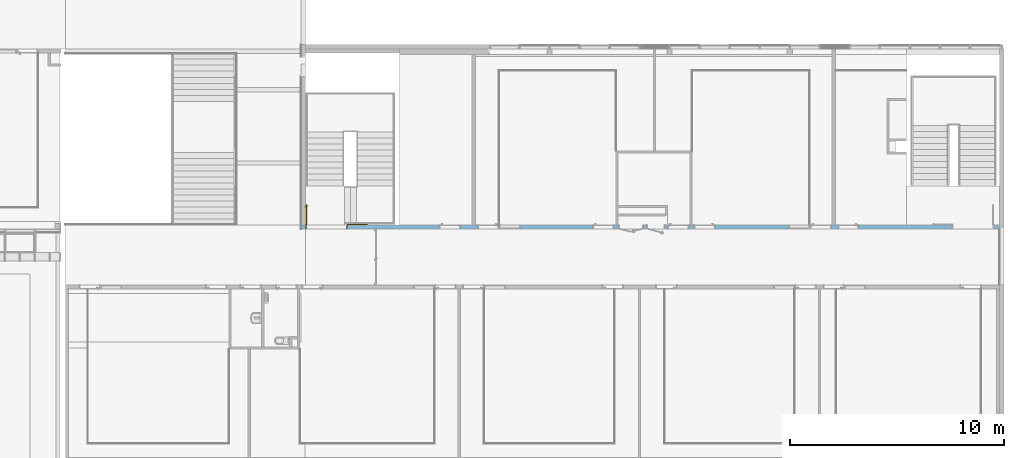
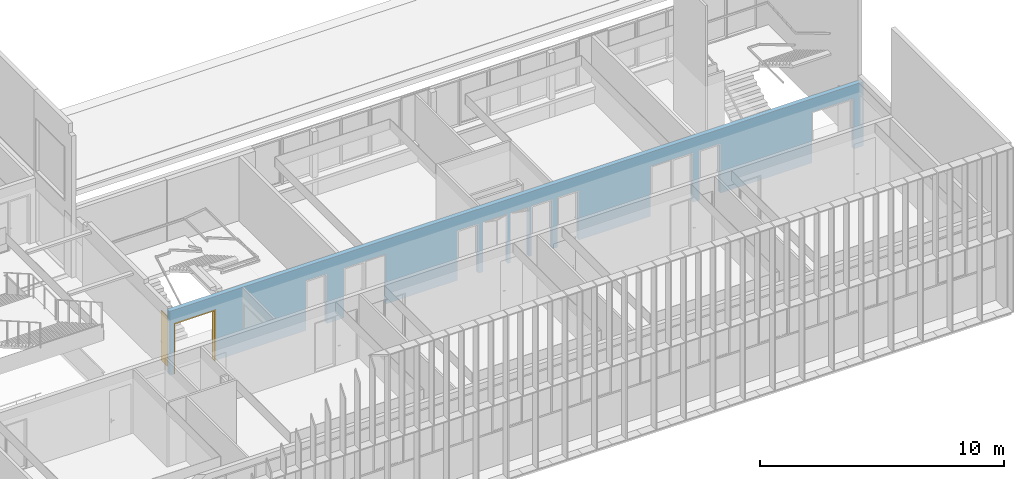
# One storey, part 89 of 106: 1 door, 13 openings, plus 1 element that does not belong to this part.
"""IFC2X3 building model written with IfcOpenShell, lengths in centimetres."""

from ifc_helpers import new_model, entity, si_unit, converted_unit, derived_unit, direction, frame, frame_2d, origin, place, context, subcontext, project, spatial, polyline, rectangle, extrude, clip, bounded_halfspace, faceted_brep, source, transform, mapped, material, material_list, layer, layer_set, layer_usage, type_object, type_shapes, element, fill, save


model = new_model("IFC2X3")

# Units and contexts
model_context = context("Model", 3, precision=0.001, world=origin(), true_north=direction((6.12303176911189e-17, 1.0)))
body_context = subcontext(model_context, "Body", "Model", "MODEL_VIEW")
ifc_project = project(units=[si_unit("LENGTHUNIT", "METRE", prefix="CENTI"), si_unit("AREAUNIT", "SQUARE_METRE"), si_unit("VOLUMEUNIT", "CUBIC_METRE"), converted_unit("PLANEANGLEUNIT", "DEGREE", entity("IfcRatioMeasure", 0.0174532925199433), si_unit("PLANEANGLEUNIT", "RADIAN"), dimensions=[0, 0, 0, 0, 0, 0, 0]), si_unit("MASSUNIT", "GRAM", prefix="KILO"), derived_unit("MASSDENSITYUNIT", [(si_unit("MASSUNIT", "GRAM", prefix="KILO"), 1), (si_unit("LENGTHUNIT", "METRE"), -3)]), si_unit("TIMEUNIT", "SECOND"), si_unit("FREQUENCYUNIT", "HERTZ"), si_unit("THERMODYNAMICTEMPERATUREUNIT", "DEGREE_CELSIUS"), derived_unit("THERMALTRANSMITTANCEUNIT", [(si_unit("MASSUNIT", "GRAM", prefix="KILO"), 1), (si_unit("THERMODYNAMICTEMPERATUREUNIT", "KELVIN"), -1), (si_unit("TIMEUNIT", "SECOND"), -3)]), derived_unit("VOLUMETRICFLOWRATEUNIT", [(si_unit("LENGTHUNIT", "METRE"), 3), (si_unit("TIMEUNIT", "SECOND"), -1)]), si_unit("ELECTRICCURRENTUNIT", "AMPERE"), si_unit("ELECTRICVOLTAGEUNIT", "VOLT"), si_unit("POWERUNIT", "WATT"), si_unit("FORCEUNIT", "NEWTON", prefix="KILO"), si_unit("ILLUMINANCEUNIT", "LUX"), si_unit("LUMINOUSFLUXUNIT", "LUMEN"), si_unit("LUMINOUSINTENSITYUNIT", "CANDELA"), derived_unit("USERDEFINED", [(si_unit("MASSUNIT", "GRAM", prefix="KILO"), -1), (si_unit("LENGTHUNIT", "METRE"), -2), (si_unit("TIMEUNIT", "SECOND"), 3), (si_unit("LUMINOUSFLUXUNIT", "LUMEN"), 1)]), derived_unit("LINEARVELOCITYUNIT", [(si_unit("LENGTHUNIT", "METRE"), 1), (si_unit("TIMEUNIT", "SECOND"), -1)]), si_unit("PRESSUREUNIT", "PASCAL"), derived_unit("USERDEFINED", [(si_unit("LENGTHUNIT", "METRE"), -2), (si_unit("MASSUNIT", "GRAM", prefix="KILO"), 1), (si_unit("TIMEUNIT", "SECOND"), -2)])], contexts=[model_context])

# Site, building, storey
site_placement = place(None, frame((-2781.94577612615, 7442.24238424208, 0.0)))
site = spatial("IfcSite", under=ifc_project, at=site_placement, Name="Default", CompositionType="ELEMENT")
building_placement = place(site_placement, origin())
building = spatial("IfcBuilding", under=site, at=building_placement, CompositionType="ELEMENT")
storey_placement = place(building_placement, frame((0.0, 0.0, 422.0)))
storey = spatial("IfcBuildingStorey", under=building, at=storey_placement, Name="Toiture - Cuisine", CompositionType="ELEMENT", Elevation=421.999999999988)

# Wall, openings, door
ifc_material_1 = material(Name="01 - Maçonnerie")
ifc_layer = layer(ifc_material_1, 20.0)
ifc_layer_set = layer_set([ifc_layer], Name="Mur de base:04 - Structure - béton - 20cm")
ifc_layer_usage = layer_usage(ifc_layer_set, "AXIS2", "NEGATIVE", 10.0)
wall_type = type_object("IfcWallType", Name="Mur de base:04 - Structure - béton - 20cm", PredefinedType="STANDARD", material=ifc_layer_set)
wall_placement = place(building_placement, frame((-3667.99987968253, -1920.07903364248, 422.0)))
wall = element("IfcWallStandardCase", 1, at=wall_placement, inside=storey, type_object=wall_type, material=ifc_layer_usage, Name="Mur de base:04 - Structure - béton - 20cm", ObjectType="Mur de base:04 - Structure - béton - 20cm", context=body_context, shape_type="Clipping", body=[
    clip(clip(extrude(rectangle(XDim=3277.99999684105, YDim=19.9999999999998, at=frame_2d((1638.99999842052, 6.21724893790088e-14), x_axis=(-1.0, 0.0))), origin(), (0.0, 0.0, 1.0), 321.0), bounded_halfspace(frame((0.0, -10.0, 321.0), z_axis=(0.0, 0.0, -1.0), x_axis=(0.0, 1.0, 0.0)), True, frame((0.0, -10.0, 321.0)), polyline([(0.0, 0.0), (20.0, 0.0), (20.0, 20.0), (0.0, 20.0), (0.0, 0.0)]))), bounded_halfspace(frame((458.699996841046, -10.0, 321.0), z_axis=(0.0, 0.0, -1.0), x_axis=(0.0, 1.0, 0.0)), True, frame((458.699996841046, -10.0, 321.0)), polyline([(0.0, 0.0), (2797.3, 0.0), (2799.29999999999, 0.0), (2799.29999999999, 10.0), (2799.29999999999, 20.0), (2034.0, 20.0), (2018.0, 20.0), (1914.0, 20.0), (1912.0, 20.0), (1363.8, 20.0), (1353.8, 20.0), (1249.8, 20.0), (1239.8, 20.0), (1149.8, 20.0), (1139.8, 20.0), (1019.8, 20.0), (1009.8, 20.0), (466.0, 20.0), (464.0, 20.0), (0.0, 20.0), (0.0, 0.0)]))),
])
opening_1_placement = place(wall_placement, frame((2502.69999684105, -10.0, 0.0)))
element("IfcOpeningElement", 2, at=opening_1_placement, cuts=wall, Name="Int. Simple:PP simple (0.93m x 2.50m):1", ObjectType="Opening", context=body_context, shape_type="SweptSolid", body=[
    extrude(rectangle(XDim=248.500000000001, YDim=99.9999999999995, at=frame_2d((124.250000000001, 49.9999999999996), x_axis=(1.0, 0.0))), frame((0.0, 0.0, 0.0), z_axis=(0.0, 1.0, 0.0), x_axis=(0.0, 0.0, 1.0)), (0.0, 0.0, 1.0), 20.0),
])
opening_2_placement = place(wall_placement, frame((2372.69999684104, -10.0, 0.0)))
element("IfcOpeningElement", 3, at=opening_2_placement, cuts=wall, Name="Int. Simple:PV (0.93m x 2.50m):1", ObjectType="Opening", context=body_context, shape_type="SweptSolid", body=[
    extrude(rectangle(XDim=248.500000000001, YDim=99.9999999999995, at=frame_2d((124.250000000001, 49.9999999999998), x_axis=(1.0, 0.0))), frame((0.0, 0.0, 0.0), z_axis=(0.0, 1.0, 0.0), x_axis=(0.0, 0.0, 1.0)), (0.0, 0.0, 1.0), 20.0),
])
opening_3_placement = place(wall_placement, frame((1832.49999684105, -10.0, 0.0)))
element("IfcOpeningElement", 4, at=opening_3_placement, cuts=wall, Name="Int. Simple:PV (0.93m x 2.50m):1", ObjectType="Opening", context=body_context, shape_type="SweptSolid", body=[
    extrude(rectangle(XDim=248.500000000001, YDim=99.9999999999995, at=frame_2d((124.250000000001, 49.9999999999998), x_axis=(1.0, 0.0))), frame((0.0, 0.0, 0.0), z_axis=(0.0, 1.0, 0.0), x_axis=(0.0, 0.0, 1.0)), (0.0, 0.0, 1.0), 20.0),
])
opening_4_placement = place(wall_placement, frame((1708.49999684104, -10.0, 0.0)))
element("IfcOpeningElement", 5, at=opening_4_placement, cuts=wall, Name="Int. Simple:PP simple (0.93m x 2.50m):1", ObjectType="Opening", context=body_context, shape_type="SweptSolid", body=[
    extrude(rectangle(XDim=248.500000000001, YDim=99.9999999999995, at=frame_2d((124.250000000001, 49.9999999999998), x_axis=(1.0, 0.0))), frame((0.0, 0.0, 0.0), z_axis=(0.0, 1.0, 0.0), x_axis=(0.0, 0.0, 1.0)), (0.0, 0.0, 1.0), 20.0),
])
opening_5_placement = place(wall_placement, frame((1358.49999684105, -10.0, 0.0)))
element("IfcOpeningElement", 6, at=opening_5_placement, cuts=wall, Name="Int. Simple:PV (0.93m x 2.50m):1", ObjectType="Opening", context=body_context, shape_type="SweptSolid", body=[
    extrude(rectangle(XDim=248.500000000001, YDim=99.9999999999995, at=frame_2d((124.250000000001, 49.9999999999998), x_axis=(1.0, 0.0))), frame((0.0, 0.0, 0.0), z_axis=(0.0, 1.0, 0.0), x_axis=(0.0, 0.0, 1.0)), (0.0, 0.0, 1.0), 20.0),
])
opening_6_placement = place(wall_placement, frame((822.699996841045, -10.0, 0.0)))
element("IfcOpeningElement", 7, at=opening_6_placement, cuts=wall, Name="Int. Simple:PV (0.93m x 2.50m):1", ObjectType="Opening", context=body_context, shape_type="SweptSolid", body=[
    extrude(rectangle(XDim=248.500000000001, YDim=99.9999999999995, at=frame_2d((124.250000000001, 49.9999999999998), x_axis=(1.0, 0.0))), frame((0.0, 0.0, 0.0), z_axis=(0.0, 1.0, 0.0), x_axis=(0.0, 0.0, 1.0)), (0.0, 0.0, 1.0), 20.0),
])
opening_7_placement = place(wall_placement, frame((642.699996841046, -10.0, 0.0)))
element("IfcOpeningElement", 8, at=opening_7_placement, cuts=wall, Name="Int. Simple:PP simple (0.93m x 2.50m):1", ObjectType="Opening", context=body_context, shape_type="SweptSolid", body=[
    extrude(rectangle(XDim=248.500000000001, YDim=99.9999999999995, at=frame_2d((124.250000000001, 49.9999999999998), x_axis=(1.0, 0.0))), frame((0.0, 0.0, 0.0), z_axis=(0.0, 1.0, 0.0), x_axis=(0.0, 0.0, 1.0)), (0.0, 0.0, 1.0), 20.0),
])
opening_8_placement = place(wall_placement, frame((2272.69999684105, -10.0, 0.0)))
element("IfcOpeningElement", 9, at=opening_8_placement, cuts=wall, Name="châssis intérieur vitré:châssis intérieur vitré (h=270) R+1:1", ObjectType="Opening", context=body_context, shape_type="SweptSolid", body=[
    extrude(rectangle(XDim=250.0, YDim=99.9999999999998, at=frame_2d((125.0, 49.9999999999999), x_axis=(1.0, 0.0))), frame((0.0, 0.0, 0.0), z_axis=(0.0, 1.0, 0.0), x_axis=(0.0, 0.0, 1.0)), (0.0, 0.0, 1.0), 20.0),
])
opening_9_placement = place(wall_placement, frame((922.699996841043, -10.0, 0.0)))
element("IfcOpeningElement", 10, at=opening_9_placement, cuts=wall, Name="châssis intérieur vitré:châssis intérieur vitré (h=270) R+1:1", ObjectType="Opening", context=body_context, shape_type="SweptSolid", body=[
    extrude(rectangle(XDim=250.0, YDim=99.9999999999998, at=frame_2d((125.0, 49.9999999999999), x_axis=(1.0, 0.0))), frame((0.0, 0.0, 0.0), z_axis=(0.0, 1.0, 0.0), x_axis=(0.0, 0.0, 1.0)), (0.0, 0.0, 1.0), 20.0),
])
opening_10_placement = place(wall_placement, frame((1697.0, 10.0, 0.0)))
element("IfcOpeningElement", 11, at=opening_10_placement, cuts=wall, Name="Int. Simple:PP Placard (0.80m x 2.50m):1", ObjectType="Opening", context=body_context, shape_type="SweptSolid", body=[
    extrude(rectangle(XDim=248.500000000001, YDim=86.9999999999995, at=frame_2d((124.250000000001, 43.4999999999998), x_axis=(1.0, 0.0))), frame((0.0, 0.0, 0.0), z_axis=(0.0, -1.0, 0.0), x_axis=(0.0, 0.0, 1.0)), (0.0, 0.0, 1.0), 20.0),
])
opening_11_placement = place(wall_placement, frame((1597.0, 10.0, 0.0)))
element("IfcOpeningElement", 12, at=opening_11_placement, cuts=wall, Name="Int. Double:PP Placard (1.10m x 2.50m):1", ObjectType="Opening", context=body_context, shape_type="SweptSolid", body=[
    extrude(rectangle(XDim=248.500000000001, YDim=117.0, at=frame_2d((124.250000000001, 58.5000000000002), x_axis=(1.0, 0.0))), frame((0.0, 0.0, 0.0), z_axis=(0.0, -1.0, 0.0), x_axis=(0.0, 0.0, 1.0)), (0.0, 0.0, 1.0), 20.0),
])
opening_12_placement = place(wall_placement, frame((3035.69999684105, -10.0, 0.0)))
element("IfcOpeningElement", 13, at=opening_12_placement, cuts=wall, Name="Int. Double:PP (1.90m x 2.50m):1", ObjectType="Opening", context=body_context, shape_type="SweptSolid", body=[
    extrude(rectangle(XDim=253.500000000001, YDim=197.0, at=frame_2d((126.750000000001, 98.5000000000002), x_axis=(1.0, 0.0))), frame((0.0, 0.0, 0.0), z_axis=(0.0, 1.0, 0.0), x_axis=(0.0, 0.0, 1.0)), (0.0, 0.0, 1.0), 20.0),
])
opening_13_placement = place(wall_placement, frame((20.0, -10.0, 0.0)))
opening_13 = element("IfcOpeningElement", 14, at=opening_13_placement, cuts=wall, Name="Int. Double:PP (1.90m x 2.50m):1", ObjectType="Opening", context=body_context, shape_type="SweptSolid", body=[
    extrude(rectangle(XDim=253.500000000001, YDim=197.0, at=frame_2d((126.750000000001, 98.5), x_axis=(1.0, 0.0))), frame((0.0, 0.0, 0.0), z_axis=(0.0, 1.0, 0.0), x_axis=(0.0, 0.0, 1.0)), (0.0, 0.0, 1.0), 20.0),
])
ifc_material_2 = material(Name="Bois - Panneau de porte")
ifc_material_3 = material(Name="Finition Peinture - Blanc satiné")
ifc_material_4 = material(Name="Bois - Cadre de porte")
ifc_material_list_1 = material_list([ifc_material_2, ifc_material_3, ifc_material_4])
ifc_material_list_2 = material_list([ifc_material_2, ifc_material_3, ifc_material_4])
door_style = type_object("IfcDoorStyle", Name="PP (1.90m x 2.50m)", ConstructionType="NOTDEFINED", OperationType="DOUBLE_DOOR_SINGLE_SWING", ParameterTakesPrecedence=False, Sizeable=False, material=ifc_material_list_2)
shared_shape = source(origin(), body_context, "Body", "Brep", [
    faceted_brep([(-91.4999999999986, -4.0, 250.0), (-91.4999999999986, -4.0, 0.0), (3.50000000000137, -4.0, 0.0), (3.50000000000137, -4.0, 250.0), (-91.4999999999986, 0.0, 250.0), (3.50000000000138, 0.0, 250.0), (3.50000000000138, 0.0, 0.0), (-91.4999999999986, 0.0, 0.0)], [[[0, 1, 2, 3]], [[4, 5, 6, 7]], [[3, 5, 4, 0]], [[2, 6, 5, 3]], [[1, 7, 6, 2]], [[0, 4, 7, 1]]]),
    faceted_brep([(194.0, -87.9647238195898, 86.6003983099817), (194.0, -87.0, 87.0), (194.0, -87.0, 108.0), (194.0, -87.9647238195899, 108.399601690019), (194.0, -89.0, 108.535898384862), (194.0, -90.0352761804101, 108.399601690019), (194.0, -91.0, 108.0), (194.0, -91.0, 87.0), (194.0, -90.03527618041, 86.6003983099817), (194.0, -89.0, 86.464101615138), (193.500000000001, -87.9647238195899, 108.399601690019), (193.500000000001, -87.0, 108.0), (193.500000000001, -87.0, 87.0), (193.500000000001, -87.9647238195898, 86.6003983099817), (193.500000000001, -89.0, 86.464101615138), (193.500000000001, -90.03527618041, 86.6003983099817), (193.500000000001, -91.0, 87.0), (193.500000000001, -91.0, 108.0), (193.500000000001, -90.0352761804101, 108.399601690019), (193.500000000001, -89.0, 108.535898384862)], [[[0, 1, 2, 3, 4, 5, 6, 7, 8, 9]], [[10, 11, 12, 13, 14, 15, 16, 17, 18, 19]], [[16, 15, 8, 7]], [[8, 15, 14, 9]], [[14, 13, 0, 9]], [[13, 12, 1, 0]], [[2, 1, 12, 11]], [[11, 10, 3, 2]], [[3, 10, 19, 4]], [[19, 18, 5, 4]], [[18, 17, 6, 5]], [[7, 6, 17, 16]]]),
    faceted_brep([(189.500000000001, -87.9647238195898, 86.6003983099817), (189.500000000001, -87.0, 87.0), (189.500000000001, -87.0, 108.0), (189.500000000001, -87.96472381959, 108.399601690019), (189.500000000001, -89.0, 108.535898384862), (189.500000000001, -90.0352761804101, 108.399601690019), (189.500000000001, -91.0, 108.0), (189.500000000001, -91.0, 87.0), (189.500000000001, -90.03527618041, 86.6003983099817), (189.500000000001, -89.0, 86.464101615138), (189.0, -87.96472381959, 108.399601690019), (189.0, -87.0, 108.0), (189.0, -87.0, 87.0), (189.0, -87.9647238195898, 86.6003983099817), (189.0, -89.0, 86.464101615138), (189.0, -90.03527618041, 86.6003983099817), (189.0, -91.0, 87.0), (189.0, -91.0, 108.0), (189.0, -90.0352761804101, 108.399601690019), (189.0, -89.0, 108.535898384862)], [[[0, 1, 2, 3, 4, 5, 6, 7, 8, 9]], [[10, 11, 12, 13, 14, 15, 16, 17, 18, 19]], [[11, 10, 3, 2]], [[3, 10, 19, 4]], [[19, 18, 5, 4]], [[18, 17, 6, 5]], [[7, 6, 17, 16]], [[16, 15, 8, 7]], [[8, 15, 14, 9]], [[14, 13, 0, 9]], [[13, 12, 1, 0]], [[2, 1, 12, 11]]]),
    faceted_brep([(194.0, -89.2025298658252, 100.778044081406), (194.0, -88.7974701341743, 100.778044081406), (194.0, -88.3999999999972, 100.699999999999), (194.0, -88.3999999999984, 99.3000000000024), (194.0, -88.7974701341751, 99.2219559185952), (194.0, -89.202529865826, 99.221955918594), (194.0, -89.6000000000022, 99.2999999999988), (194.0, -89.6000000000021, 100.7), (196.765095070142, -89.6000000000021, 100.7), (196.600457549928, -89.2025298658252, 100.778044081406), (198.205345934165, -87.5976414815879, 100.778044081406), (197.800286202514, -87.4298602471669, 100.778044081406), (196.432676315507, -88.7974701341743, 100.778044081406), (196.268038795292, -88.3999999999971, 100.7), (196.268038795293, -88.3999999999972, 99.3000000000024), (196.432676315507, -88.7974701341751, 99.2219559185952), (197.800286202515, -87.4298602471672, 99.2219559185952), (198.205345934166, -87.5976414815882, 99.221955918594), (196.600457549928, -89.202529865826, 99.221955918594), (196.765095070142, -89.6000000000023, 99.2999999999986), (198.602816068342, -87.7622790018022, 100.7), (197.402816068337, -87.2652227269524, 100.7), (197.402816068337, -87.2652227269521, 99.3000000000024), (198.602816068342, -87.7622790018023, 99.2999999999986), (198.602816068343, -78.9981359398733, 99.2999999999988), (198.205345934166, -78.9981359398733, 99.221955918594), (197.800286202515, -78.9981359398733, 99.2219559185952), (197.402816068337, -78.9981359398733, 99.3000000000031), (197.402816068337, -78.9981359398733, 100.7), (197.800286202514, -78.9981359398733, 100.778044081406), (198.205345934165, -78.9981359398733, 100.778044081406), (198.602816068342, -78.9981359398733, 100.699999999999), (198.602816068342, -83.7692302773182, 100.7), (198.002816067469, -83.2139980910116, 100.78786867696), (197.402816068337, -83.1316793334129, 100.7), (197.402816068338, -83.1316793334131, 99.3000000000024), (198.002816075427, -83.2139981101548, 99.2121313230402), (198.602816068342, -83.7692299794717, 99.2999999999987)], [[[0, 1, 2, 3, 4, 5, 6, 7]], [[8, 9, 0, 7]], [[9, 10, 11, 12, 1, 0]], [[12, 13, 2, 1]], [[3, 2, 13, 14]], [[14, 15, 4, 3]], [[15, 16, 17, 18, 5, 4]], [[18, 19, 6, 5]], [[7, 6, 19, 8]], [[20, 10, 9, 8]], [[11, 21, 13, 12]], [[14, 13, 21, 22]], [[22, 16, 15, 14]], [[17, 23, 19, 18]], [[8, 19, 23, 20]], [[24, 25, 26, 27, 28, 29, 30, 31]], [[32, 30, 33]], [[31, 30, 32]], [[10, 20, 32]], [[33, 34, 11]], [[21, 11, 34]], [[34, 29, 28]], [[30, 29, 33]], [[29, 34, 33]], [[10, 32, 33]], [[10, 33, 11]], [[22, 21, 34, 28, 27, 35]], [[35, 26, 36]], [[37, 36, 25]], [[22, 35, 16]], [[35, 27, 26]], [[24, 37, 25]], [[23, 17, 37]], [[37, 17, 36]], [[17, 16, 36]], [[16, 35, 36]], [[25, 36, 26]], [[20, 23, 37, 24, 31, 32]]]),
    faceted_brep([(189.0, -89.2025298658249, 100.778044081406), (189.0, -89.6000000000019, 100.7), (189.0, -89.6000000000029, 99.2999999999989), (189.0, -89.2025298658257, 99.221955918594), (189.0, -88.7974701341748, 99.2219559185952), (189.0, -88.3999999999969, 99.3000000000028), (189.0, -88.399999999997, 100.7), (189.0, -88.7974701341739, 100.778044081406), (186.751479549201, -88.3999999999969, 99.3000000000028), (186.751479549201, -88.3999999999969, 100.7), (186.586842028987, -88.7974701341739, 100.778044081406), (185.205481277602, -87.4161093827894, 100.778044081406), (184.800421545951, -87.5838906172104, 100.778044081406), (186.419060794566, -89.2025298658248, 100.778044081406), (186.254423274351, -89.6000000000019, 100.7), (186.254423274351, -89.6000000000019, 99.2999999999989), (186.419060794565, -89.2025298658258, 99.221955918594), (184.80042154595, -87.5838906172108, 99.221955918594), (185.205481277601, -87.4161093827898, 99.2219559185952), (186.586842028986, -88.7974701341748, 99.2219559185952), (185.602951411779, -87.2514718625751, 99.3000000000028), (185.602951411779, -87.251471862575, 100.7), (184.402951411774, -87.7485281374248, 100.7), (184.402951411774, -87.7485281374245, 99.2999999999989), (185.602951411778, -78.9954216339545, 99.3000000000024), (185.205481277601, -78.9954216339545, 99.2219559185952), (184.80042154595, -78.9954216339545, 99.221955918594), (184.402951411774, -78.9954216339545, 99.2999999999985), (184.402951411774, -78.9954216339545, 100.7), (184.800421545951, -78.9954216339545, 100.778044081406), (185.205481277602, -78.9954216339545, 100.778044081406), (185.602951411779, -78.9954216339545, 100.7), (185.602951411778, -83.1234479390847, 99.3000000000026), (185.602951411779, -83.1234467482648, 100.7), (185.002951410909, -83.2057655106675, 100.78786867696), (184.402951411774, -83.755479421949, 100.7), (184.402951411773, -83.75547956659, 99.2999999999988), (185.002951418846, -83.2057654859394, 99.2121313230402)], [[[0, 1, 2, 3, 4, 5, 6, 7]], [[6, 5, 8, 9]], [[9, 10, 7, 6]], [[10, 11, 12, 13, 0, 7]], [[13, 14, 1, 0]], [[2, 1, 14, 15]], [[15, 16, 3, 2]], [[16, 17, 18, 19, 4, 3]], [[19, 8, 5, 4]], [[9, 8, 20, 21]], [[21, 11, 10, 9]], [[12, 22, 14, 13]], [[15, 14, 22, 23]], [[23, 17, 16, 15]], [[18, 20, 8, 19]], [[24, 25, 26, 27, 28, 29, 30, 31]], [[21, 20, 32, 24, 31, 33]], [[33, 30, 34]], [[35, 34, 29]], [[21, 33, 11]], [[33, 31, 30]], [[28, 35, 29]], [[22, 12, 35]], [[35, 12, 34]], [[12, 11, 34]], [[11, 33, 34]], [[29, 34, 30]], [[22, 35, 28, 27, 36, 23]], [[36, 26, 37]], [[27, 26, 36]], [[17, 23, 36]], [[37, 32, 18]], [[20, 18, 32]], [[32, 25, 24]], [[26, 25, 37]], [[25, 32, 37]], [[17, 36, 37]], [[17, 37, 18]]]),
    faceted_brep([(189.500000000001, -95.0, 250.0), (189.500000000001, 0.0, 250.0), (189.500000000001, 0.0, 0.0), (189.500000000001, -95.0, 0.0), (193.500000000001, -95.0, 250.0), (193.500000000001, -95.0, 0.0), (193.500000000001, 0.0, 0.0), (193.500000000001, 0.0, 250.0)], [[[0, 1, 2, 3]], [[4, 5, 6, 7]], [[1, 0, 4, 7]], [[2, 1, 7, 6]], [[3, 2, 6, 5]], [[0, 3, 5, 4]]]),
    faceted_brep([(0.0, 0.0, 0.0), (0.0, 20.0, 0.0), (5.0, 20.0, 0.0), (5.0, 4.0, 0.0), (3.5000000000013, 4.0, 0.0), (3.5000000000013, 0.0, 0.0), (0.0, 0.0, 253.500000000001), (0.0, 20.0, 253.500000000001), (197.0, 20.0, 253.500000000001), (197.0, 20.0, 0.0), (192.0, 20.0, 0.0), (192.0, 20.0, 248.5), (5.0, 20.0, 248.5), (5.0, 4.0, 248.5), (192.0, 4.0, 248.5), (192.0, 4.0, 0.0), (193.499999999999, 4.0, 0.0), (193.499999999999, 4.0, 250.0), (3.50000000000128, 4.0, 250.0), (3.50000000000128, 0.0, 250.0), (193.499999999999, 0.0, 250.0), (193.499999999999, 0.0, 0.0), (197.0, 0.0, 0.0), (197.0, 0.0, 253.500000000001)], [[[0, 1, 2, 3, 4, 5]], [[1, 0, 6, 7]], [[2, 1, 7, 8, 9, 10, 11, 12]], [[3, 2, 12, 13]], [[4, 3, 13, 14, 15, 16, 17, 18]], [[5, 4, 18, 19]], [[0, 5, 19, 20, 21, 22, 23, 6]], [[8, 23, 22, 9]], [[22, 21, 16, 15, 10, 9]], [[14, 11, 10, 15]], [[20, 17, 16, 21]], [[7, 6, 23, 8]], [[13, 12, 11, 14]], [[19, 18, 17, 20]]]),
    faceted_brep([(1.49999999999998, 20.0, 0.0), (-1.50000000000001, 20.0, 0.0), (-1.50000000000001, 20.5000000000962, 0.0), (1.49999999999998, 20.5000000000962, 0.0), (1.49999999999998, 20.0, 252.0), (195.5, 20.0, 252.0), (195.5, 20.0, 0.0), (198.5, 20.0, 0.0), (198.5, 20.0, 255.0), (-1.50000000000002, 20.0, 255.0), (-1.50000000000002, 20.5000000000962, 255.0), (198.5, 20.5000000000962, 255.0), (198.5, 20.5000000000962, 0.0), (195.5, 20.5000000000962, 0.0), (195.5, 20.5000000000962, 252.0), (1.49999999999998, 20.5000000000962, 252.0)], [[[0, 1, 2, 3]], [[1, 0, 4, 5, 6, 7, 8, 9]], [[2, 1, 9, 10]], [[3, 2, 10, 11, 12, 13, 14, 15]], [[0, 3, 15, 4]], [[5, 14, 13, 6]], [[6, 13, 12, 7]], [[11, 8, 7, 12]], [[10, 9, 8, 11]], [[4, 15, 14, 5]]]),
    faceted_brep([(-1.50000000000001, -0.500000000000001, 0.0), (1.49999999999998, -0.500000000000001, 0.0), (1.49999999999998, -0.500000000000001, 252.0), (195.5, -0.500000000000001, 252.0), (195.5, -0.500000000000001, 0.0), (198.5, -0.500000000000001, 0.0), (198.5, -0.500000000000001, 255.0), (-1.50000000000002, -0.500000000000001, 255.0), (-1.50000000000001, 0.0, 0.0), (-1.50000000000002, 0.0, 255.0), (1.49999999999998, 0.0, 0.0), (198.5, 0.0, 255.0), (198.5, 0.0, 0.0), (195.5, 0.0, 0.0), (195.5, 0.0, 252.0), (1.49999999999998, 0.0, 252.0)], [[[0, 1, 2, 3, 4, 5, 6, 7]], [[8, 0, 7, 9]], [[10, 8, 9, 11, 12, 13, 14, 15]], [[1, 10, 15, 2]], [[3, 14, 13, 4]], [[11, 6, 5, 12]], [[9, 7, 6, 11]], [[2, 15, 14, 3]], [[4, 13, 12, 5]], [[1, 0, 8, 10]]]),
])
type_shapes(door_style, [shared_shape])
door_placement = place(opening_13_placement, frame((197.0, 20.0, 0.0), z_axis=(0.0, 0.0, 1.0), x_axis=(-1.0, 0.0, 0.0)))
door = element("IfcDoor", 15, at=door_placement, inside=storey, type_object=door_style, material=ifc_material_list_1, Name="Int. Double:PP (1.90m x 2.50m)", ObjectType="Int. Double:PP (1.90m x 2.50m)", OverallHeight=253.500000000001, OverallWidth=197.0, context=body_context, shape_type="MappedRepresentation", body=[
    mapped(shared_shape, transform((0.0, 0.0, 0.0), scale=1.0)),
])
fill(opening_13, door)

save(model, "model.ifc")
